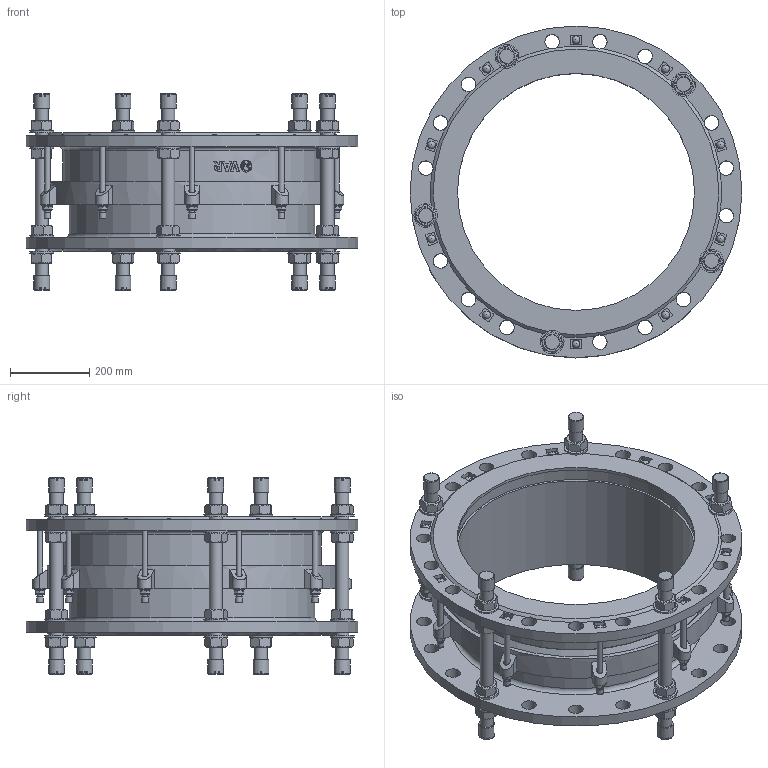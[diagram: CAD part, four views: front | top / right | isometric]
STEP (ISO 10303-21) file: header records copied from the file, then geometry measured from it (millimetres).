
FILE_DESCRIPTION(('STEP AP242'), '1');
FILE_NAME('Ìîíòàæíàÿ âñòàâêà', '', ('UNSPECIFIED'), ('UNSPECIFIED'), 'C3D Converter', 'C3D Toolkit', '');
FILE_SCHEMA(('AP242_MANAGED_MODEL_BASED_3D_ENGINEERING_MIM_LF { 1 0 10303 442 1 1 4 }'));
Length unit declared in the file: millimetre
Products named in the file (13): ШМ.М16.310
Assembly tree (99 placements, depth 2):
  (unnamed)
    (unnamed)
    (unnamed)
    (unnamed)
    (unnamed)  x20
    (unnamed)  x20
    ШМ.М16.310  x5
    (unnamed)  x10
    (unnamed)
    (unnamed)  x10
    (unnamed)  x10
    (unnamed)  x10
    (unnamed)  x10
Bounding box: 840 x 840 x 496.6 mm (x, y, z)
Volume: 30640639.4 mm3; surface area: 4293496.3 mm2
Topology: 99 solids, 99 shells, 1112 faces, 2520 edges, 1601 vertices
Faces by surface type: plane 656, cylinder 267, cone 146, torus 22, extrusion 11, sphere 10
Full cylindrical faces by diameter (mm): 14 x30, 15 x10, 16 x10, 16.8 x10, 28 x10, 30.201 x1, 33 x35, 34 x20, 37 x40, 39.6 x10, 60 x20, 600 x2, 622 x2, 633 x2, 655 x1, 677 x1, 711 x1, 733 x1, 840 x2
Entity records: 24405 total; most frequent: CARTESIAN_POINT 11612, DIRECTION 2122, ORIENTED_EDGE 1926, EDGE_CURVE 963, AXIS2_PLACEMENT_3D 846, VERTEX_POINT 696, EDGE_LOOP 591, FACE_BOUND 449
